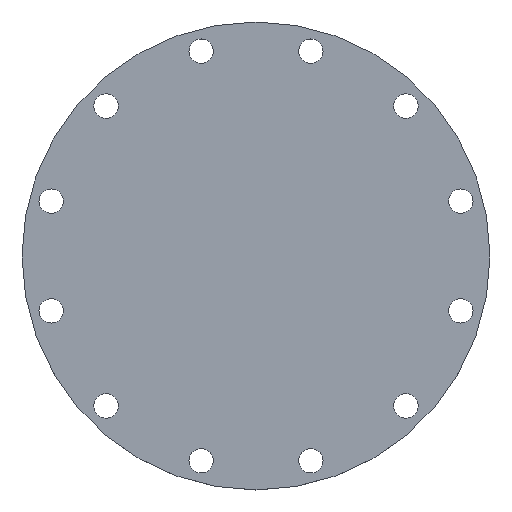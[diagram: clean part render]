
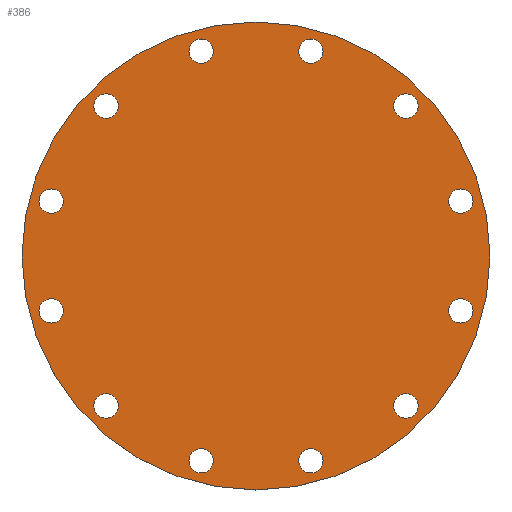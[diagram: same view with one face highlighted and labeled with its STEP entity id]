
A CAD part, top view. The second image highlights one B-rep face of the part: STEP entity #386.
In plain terms, the highlighted planar face has unit normal (0, 0, 1).
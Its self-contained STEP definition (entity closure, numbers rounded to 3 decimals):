
#15=FACE_BOUND('',#70,.T.);
#16=FACE_BOUND('',#71,.T.);
#17=FACE_BOUND('',#72,.T.);
#18=FACE_BOUND('',#73,.T.);
#19=FACE_BOUND('',#74,.T.);
#20=FACE_BOUND('',#75,.T.);
#21=FACE_BOUND('',#76,.T.);
#22=FACE_BOUND('',#77,.T.);
#23=FACE_BOUND('',#78,.T.);
#24=FACE_BOUND('',#79,.T.);
#25=FACE_BOUND('',#80,.T.);
#26=FACE_BOUND('',#81,.T.);
#39=PLANE('',#461);
#54=FACE_OUTER_BOUND('',#69,.T.);
#69=EDGE_LOOP('',(#320,#321));
#70=EDGE_LOOP('',(#322,#323));
#71=EDGE_LOOP('',(#324,#325));
#72=EDGE_LOOP('',(#326,#327));
#73=EDGE_LOOP('',(#328,#329));
#74=EDGE_LOOP('',(#330,#331));
#75=EDGE_LOOP('',(#332,#333));
#76=EDGE_LOOP('',(#334,#335));
#77=EDGE_LOOP('',(#336,#337));
#78=EDGE_LOOP('',(#338,#339));
#79=EDGE_LOOP('',(#340,#341));
#80=EDGE_LOOP('',(#342,#343));
#81=EDGE_LOOP('',(#344,#345));
#121=CIRCLE('',#409,12.5);
#122=CIRCLE('',#410,12.5);
#124=CIRCLE('',#413,12.5);
#125=CIRCLE('',#414,12.5);
#127=CIRCLE('',#417,12.5);
#128=CIRCLE('',#418,12.5);
#130=CIRCLE('',#421,12.5);
#131=CIRCLE('',#422,12.5);
#133=CIRCLE('',#425,12.5);
#134=CIRCLE('',#426,12.5);
#136=CIRCLE('',#429,12.5);
#137=CIRCLE('',#430,12.5);
#139=CIRCLE('',#433,12.5);
#140=CIRCLE('',#434,12.5);
#142=CIRCLE('',#437,12.5);
#143=CIRCLE('',#438,12.5);
#145=CIRCLE('',#441,12.5);
#146=CIRCLE('',#442,12.5);
#148=CIRCLE('',#445,12.5);
#149=CIRCLE('',#446,12.5);
#151=CIRCLE('',#449,12.5);
#152=CIRCLE('',#450,12.5);
#154=CIRCLE('',#453,12.5);
#155=CIRCLE('',#454,12.5);
#157=CIRCLE('',#457,240.);
#158=CIRCLE('',#458,240.);
#161=VERTEX_POINT('',#590);
#162=VERTEX_POINT('',#591);
#164=VERTEX_POINT('',#598);
#165=VERTEX_POINT('',#599);
#167=VERTEX_POINT('',#606);
#168=VERTEX_POINT('',#607);
#170=VERTEX_POINT('',#614);
#171=VERTEX_POINT('',#615);
#173=VERTEX_POINT('',#622);
#174=VERTEX_POINT('',#623);
#176=VERTEX_POINT('',#630);
#177=VERTEX_POINT('',#631);
#179=VERTEX_POINT('',#638);
#180=VERTEX_POINT('',#639);
#182=VERTEX_POINT('',#646);
#183=VERTEX_POINT('',#647);
#185=VERTEX_POINT('',#654);
#186=VERTEX_POINT('',#655);
#188=VERTEX_POINT('',#662);
#189=VERTEX_POINT('',#663);
#191=VERTEX_POINT('',#670);
#192=VERTEX_POINT('',#671);
#194=VERTEX_POINT('',#678);
#195=VERTEX_POINT('',#679);
#197=VERTEX_POINT('',#686);
#198=VERTEX_POINT('',#687);
#201=EDGE_CURVE('',#161,#162,#121,.T.);
#202=EDGE_CURVE('',#162,#161,#122,.T.);
#205=EDGE_CURVE('',#164,#165,#124,.T.);
#206=EDGE_CURVE('',#165,#164,#125,.T.);
#209=EDGE_CURVE('',#167,#168,#127,.T.);
#210=EDGE_CURVE('',#168,#167,#128,.T.);
#213=EDGE_CURVE('',#170,#171,#130,.T.);
#214=EDGE_CURVE('',#171,#170,#131,.T.);
#217=EDGE_CURVE('',#173,#174,#133,.T.);
#218=EDGE_CURVE('',#174,#173,#134,.T.);
#221=EDGE_CURVE('',#176,#177,#136,.T.);
#222=EDGE_CURVE('',#177,#176,#137,.T.);
#225=EDGE_CURVE('',#179,#180,#139,.T.);
#226=EDGE_CURVE('',#180,#179,#140,.T.);
#229=EDGE_CURVE('',#182,#183,#142,.T.);
#230=EDGE_CURVE('',#183,#182,#143,.T.);
#233=EDGE_CURVE('',#185,#186,#145,.T.);
#234=EDGE_CURVE('',#186,#185,#146,.T.);
#237=EDGE_CURVE('',#188,#189,#148,.T.);
#238=EDGE_CURVE('',#189,#188,#149,.T.);
#241=EDGE_CURVE('',#191,#192,#151,.T.);
#242=EDGE_CURVE('',#192,#191,#152,.T.);
#245=EDGE_CURVE('',#194,#195,#154,.T.);
#246=EDGE_CURVE('',#195,#194,#155,.T.);
#249=EDGE_CURVE('',#197,#198,#157,.T.);
#250=EDGE_CURVE('',#198,#197,#158,.T.);
#320=ORIENTED_EDGE('',*,*,#249,.T.);
#321=ORIENTED_EDGE('',*,*,#250,.T.);
#322=ORIENTED_EDGE('',*,*,#201,.T.);
#323=ORIENTED_EDGE('',*,*,#202,.T.);
#324=ORIENTED_EDGE('',*,*,#205,.T.);
#325=ORIENTED_EDGE('',*,*,#206,.T.);
#326=ORIENTED_EDGE('',*,*,#209,.T.);
#327=ORIENTED_EDGE('',*,*,#210,.T.);
#328=ORIENTED_EDGE('',*,*,#213,.T.);
#329=ORIENTED_EDGE('',*,*,#214,.T.);
#330=ORIENTED_EDGE('',*,*,#217,.T.);
#331=ORIENTED_EDGE('',*,*,#218,.T.);
#332=ORIENTED_EDGE('',*,*,#221,.T.);
#333=ORIENTED_EDGE('',*,*,#222,.T.);
#334=ORIENTED_EDGE('',*,*,#225,.T.);
#335=ORIENTED_EDGE('',*,*,#226,.T.);
#336=ORIENTED_EDGE('',*,*,#229,.T.);
#337=ORIENTED_EDGE('',*,*,#230,.T.);
#338=ORIENTED_EDGE('',*,*,#233,.T.);
#339=ORIENTED_EDGE('',*,*,#234,.T.);
#340=ORIENTED_EDGE('',*,*,#237,.T.);
#341=ORIENTED_EDGE('',*,*,#238,.T.);
#342=ORIENTED_EDGE('',*,*,#241,.T.);
#343=ORIENTED_EDGE('',*,*,#242,.T.);
#344=ORIENTED_EDGE('',*,*,#245,.T.);
#345=ORIENTED_EDGE('',*,*,#246,.T.);
#386=ADVANCED_FACE('',(#54,#15,#16,#17,#18,#19,#20,#21,#22,#23,#24,#25,
#26),#39,.T.);
#409=AXIS2_PLACEMENT_3D('',#592,#467,#468);
#410=AXIS2_PLACEMENT_3D('',#593,#469,#470);
#413=AXIS2_PLACEMENT_3D('',#600,#476,#477);
#414=AXIS2_PLACEMENT_3D('',#601,#478,#479);
#417=AXIS2_PLACEMENT_3D('',#608,#485,#486);
#418=AXIS2_PLACEMENT_3D('',#609,#487,#488);
#421=AXIS2_PLACEMENT_3D('',#616,#494,#495);
#422=AXIS2_PLACEMENT_3D('',#617,#496,#497);
#425=AXIS2_PLACEMENT_3D('',#624,#503,#504);
#426=AXIS2_PLACEMENT_3D('',#625,#505,#506);
#429=AXIS2_PLACEMENT_3D('',#632,#512,#513);
#430=AXIS2_PLACEMENT_3D('',#633,#514,#515);
#433=AXIS2_PLACEMENT_3D('',#640,#521,#522);
#434=AXIS2_PLACEMENT_3D('',#641,#523,#524);
#437=AXIS2_PLACEMENT_3D('',#648,#530,#531);
#438=AXIS2_PLACEMENT_3D('',#649,#532,#533);
#441=AXIS2_PLACEMENT_3D('',#656,#539,#540);
#442=AXIS2_PLACEMENT_3D('',#657,#541,#542);
#445=AXIS2_PLACEMENT_3D('',#664,#548,#549);
#446=AXIS2_PLACEMENT_3D('',#665,#550,#551);
#449=AXIS2_PLACEMENT_3D('',#672,#557,#558);
#450=AXIS2_PLACEMENT_3D('',#673,#559,#560);
#453=AXIS2_PLACEMENT_3D('',#680,#566,#567);
#454=AXIS2_PLACEMENT_3D('',#681,#568,#569);
#457=AXIS2_PLACEMENT_3D('',#688,#575,#576);
#458=AXIS2_PLACEMENT_3D('',#689,#577,#578);
#461=AXIS2_PLACEMENT_3D('',#695,#584,#585);
#467=DIRECTION('center_axis',(0.,0.,-1.));
#468=DIRECTION('ref_axis',(0.866,-0.5,0.));
#469=DIRECTION('center_axis',(0.,0.,-1.));
#470=DIRECTION('ref_axis',(0.866,-0.5,0.));
#476=DIRECTION('center_axis',(0.,0.,-1.));
#477=DIRECTION('ref_axis',(0.5,-0.866,0.));
#478=DIRECTION('center_axis',(0.,0.,-1.));
#479=DIRECTION('ref_axis',(0.5,-0.866,0.));
#485=DIRECTION('center_axis',(0.,0.,-1.));
#486=DIRECTION('ref_axis',(0.,-1.,0.));
#487=DIRECTION('center_axis',(0.,0.,-1.));
#488=DIRECTION('ref_axis',(0.,-1.,0.));
#494=DIRECTION('center_axis',(0.,0.,-1.));
#495=DIRECTION('ref_axis',(-0.5,-0.866,0.));
#496=DIRECTION('center_axis',(0.,0.,-1.));
#497=DIRECTION('ref_axis',(-0.5,-0.866,0.));
#503=DIRECTION('center_axis',(0.,0.,-1.));
#504=DIRECTION('ref_axis',(-0.866,-0.5,0.));
#505=DIRECTION('center_axis',(0.,0.,-1.));
#506=DIRECTION('ref_axis',(-0.866,-0.5,0.));
#512=DIRECTION('center_axis',(0.,0.,-1.));
#513=DIRECTION('ref_axis',(-1.,0.,0.));
#514=DIRECTION('center_axis',(0.,0.,-1.));
#515=DIRECTION('ref_axis',(-1.,0.,0.));
#521=DIRECTION('center_axis',(0.,0.,-1.));
#522=DIRECTION('ref_axis',(-0.866,0.5,0.));
#523=DIRECTION('center_axis',(0.,0.,-1.));
#524=DIRECTION('ref_axis',(-0.866,0.5,0.));
#530=DIRECTION('center_axis',(0.,0.,-1.));
#531=DIRECTION('ref_axis',(-0.5,0.866,0.));
#532=DIRECTION('center_axis',(0.,0.,-1.));
#533=DIRECTION('ref_axis',(-0.5,0.866,0.));
#539=DIRECTION('center_axis',(0.,0.,-1.));
#540=DIRECTION('ref_axis',(0.,1.,0.));
#541=DIRECTION('center_axis',(0.,0.,-1.));
#542=DIRECTION('ref_axis',(0.,1.,0.));
#548=DIRECTION('center_axis',(0.,0.,-1.));
#549=DIRECTION('ref_axis',(0.5,0.866,0.));
#550=DIRECTION('center_axis',(0.,0.,-1.));
#551=DIRECTION('ref_axis',(0.5,0.866,0.));
#557=DIRECTION('center_axis',(0.,0.,-1.));
#558=DIRECTION('ref_axis',(0.866,0.5,0.));
#559=DIRECTION('center_axis',(0.,0.,-1.));
#560=DIRECTION('ref_axis',(0.866,0.5,0.));
#566=DIRECTION('center_axis',(0.,0.,-1.));
#567=DIRECTION('ref_axis',(1.,0.,0.));
#568=DIRECTION('center_axis',(0.,0.,-1.));
#569=DIRECTION('ref_axis',(1.,0.,0.));
#575=DIRECTION('center_axis',(0.,0.,1.));
#576=DIRECTION('ref_axis',(1.,0.,0.));
#577=DIRECTION('center_axis',(0.,0.,1.));
#578=DIRECTION('ref_axis',(1.,0.,0.));
#584=DIRECTION('center_axis',(0.,0.,1.));
#585=DIRECTION('ref_axis',(1.,0.,0.));
#590=CARTESIAN_POINT('',(67.118,203.839,24.));
#591=CARTESIAN_POINT('',(45.468,216.339,24.));
#592=CARTESIAN_POINT('Origin',(56.293,210.089,24.));
#593=CARTESIAN_POINT('Origin',(56.293,210.089,24.));
#598=CARTESIAN_POINT('',(160.046,142.97,24.));
#599=CARTESIAN_POINT('',(147.546,164.621,24.));
#600=CARTESIAN_POINT('Origin',(153.796,153.796,24.));
#601=CARTESIAN_POINT('Origin',(153.796,153.796,24.));
#606=CARTESIAN_POINT('',(210.089,43.793,24.));
#607=CARTESIAN_POINT('',(210.089,68.793,24.));
#608=CARTESIAN_POINT('Origin',(210.089,56.293,24.));
#609=CARTESIAN_POINT('Origin',(210.089,56.293,24.));
#614=CARTESIAN_POINT('',(203.839,-67.118,24.));
#615=CARTESIAN_POINT('',(216.339,-45.468,24.));
#616=CARTESIAN_POINT('Origin',(210.089,-56.293,24.));
#617=CARTESIAN_POINT('Origin',(210.089,-56.293,24.));
#622=CARTESIAN_POINT('',(142.97,-160.046,24.));
#623=CARTESIAN_POINT('',(164.621,-147.546,24.));
#624=CARTESIAN_POINT('Origin',(153.796,-153.796,24.));
#625=CARTESIAN_POINT('Origin',(153.796,-153.796,24.));
#630=CARTESIAN_POINT('',(43.793,-210.089,24.));
#631=CARTESIAN_POINT('',(68.793,-210.089,24.));
#632=CARTESIAN_POINT('Origin',(56.293,-210.089,24.));
#633=CARTESIAN_POINT('Origin',(56.293,-210.089,24.));
#638=CARTESIAN_POINT('',(-67.118,-203.839,24.));
#639=CARTESIAN_POINT('',(-45.468,-216.339,24.));
#640=CARTESIAN_POINT('Origin',(-56.293,-210.089,24.));
#641=CARTESIAN_POINT('Origin',(-56.293,-210.089,24.));
#646=CARTESIAN_POINT('',(-160.046,-142.97,24.));
#647=CARTESIAN_POINT('',(-147.546,-164.621,24.));
#648=CARTESIAN_POINT('Origin',(-153.796,-153.796,24.));
#649=CARTESIAN_POINT('Origin',(-153.796,-153.796,24.));
#654=CARTESIAN_POINT('',(-210.089,-43.793,24.));
#655=CARTESIAN_POINT('',(-210.089,-68.793,24.));
#656=CARTESIAN_POINT('Origin',(-210.089,-56.293,24.));
#657=CARTESIAN_POINT('Origin',(-210.089,-56.293,24.));
#662=CARTESIAN_POINT('',(-203.839,67.118,24.));
#663=CARTESIAN_POINT('',(-216.339,45.468,24.));
#664=CARTESIAN_POINT('Origin',(-210.089,56.293,24.));
#665=CARTESIAN_POINT('Origin',(-210.089,56.293,24.));
#670=CARTESIAN_POINT('',(-142.97,160.046,24.));
#671=CARTESIAN_POINT('',(-164.621,147.546,24.));
#672=CARTESIAN_POINT('Origin',(-153.796,153.796,24.));
#673=CARTESIAN_POINT('Origin',(-153.796,153.796,24.));
#678=CARTESIAN_POINT('',(-43.793,210.089,24.));
#679=CARTESIAN_POINT('',(-68.793,210.089,24.));
#680=CARTESIAN_POINT('Origin',(-56.293,210.089,24.));
#681=CARTESIAN_POINT('Origin',(-56.293,210.089,24.));
#686=CARTESIAN_POINT('',(240.,0.,24.));
#687=CARTESIAN_POINT('',(-240.,0.,24.));
#688=CARTESIAN_POINT('Origin',(0.,0.,24.));
#689=CARTESIAN_POINT('Origin',(0.,0.,24.));
#695=CARTESIAN_POINT('Origin',(0.,0.,24.));
